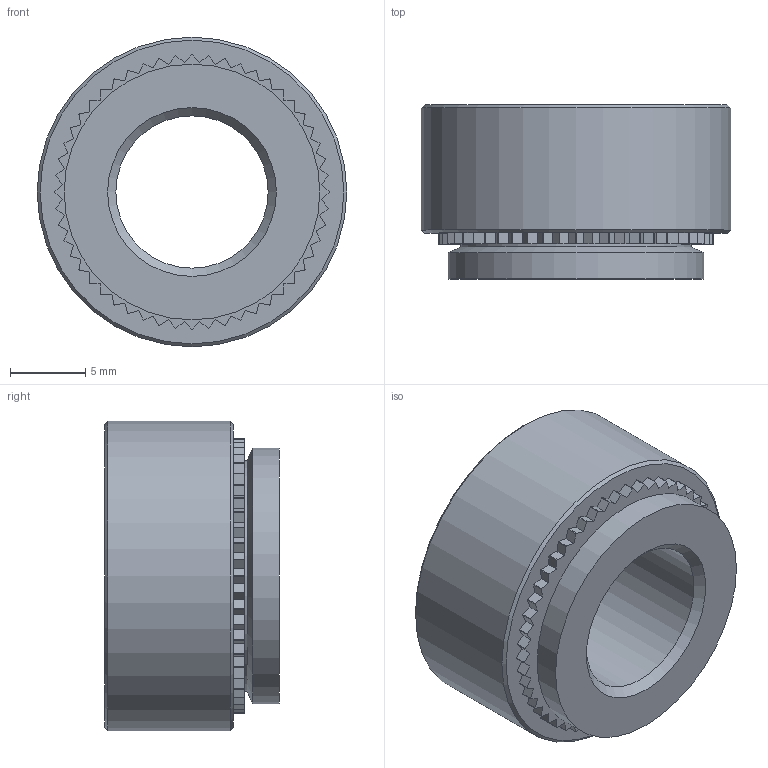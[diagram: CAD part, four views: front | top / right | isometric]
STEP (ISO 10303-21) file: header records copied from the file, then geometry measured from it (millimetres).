
FILE_DESCRIPTION(/* description */ (''),/* implementation_level */ '2;1');
FILE_NAME(/* name */ 'C:\Users\keval.kumar\Desktop\Fastit\Clinch nut\M12\Clinch Nut_M12_1.stp',/* time_stamp */ '2024-03-14T09:44:46+05:00',/* author */ ('keval.kumar'),/* organization */ (''),/* preprocessor_version */ 'ST-DEVELOPER v18.1',/* originating_system */ 'Autodesk Inventor 2022',/* authorisation */ '');
FILE_SCHEMA (('AUTOMOTIVE_DESIGN { 1 0 10303 214 3 1 1 }'));
Length unit declared in the file: millimetre
Products named in the file (1): Clinch Nut_M12_1
Bounding box: 20.55 x 11.55 x 20.55 mm (x, y, z)
Volume: 2568.6 mm3; surface area: 1629.8 mm2
Topology: 1 solids, 1 shells, 169 faces, 492 edges, 327 vertices
Faces by surface type: plane 108, cylinder 56, cone 5
Full cylindrical faces by diameter (mm): 10.106 x1, 15.3 x1, 16.97 x1, 20.55 x1
Entity records: 5628 total; most frequent: CARTESIAN_POINT 989, ORIENTED_EDGE 984, DIRECTION 951, EDGE_CURVE 492, LINE 373, VECTOR 373, VERTEX_POINT 327, AXIS2_PLACEMENT_3D 289
